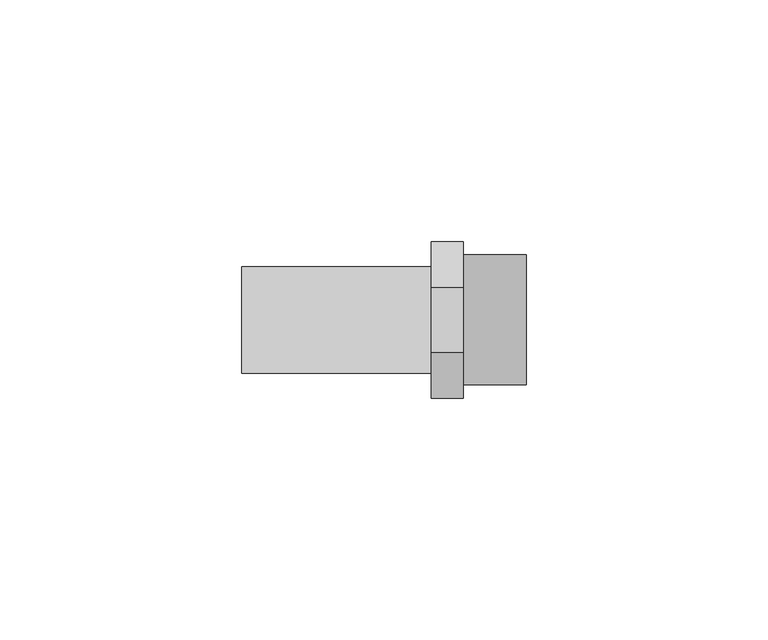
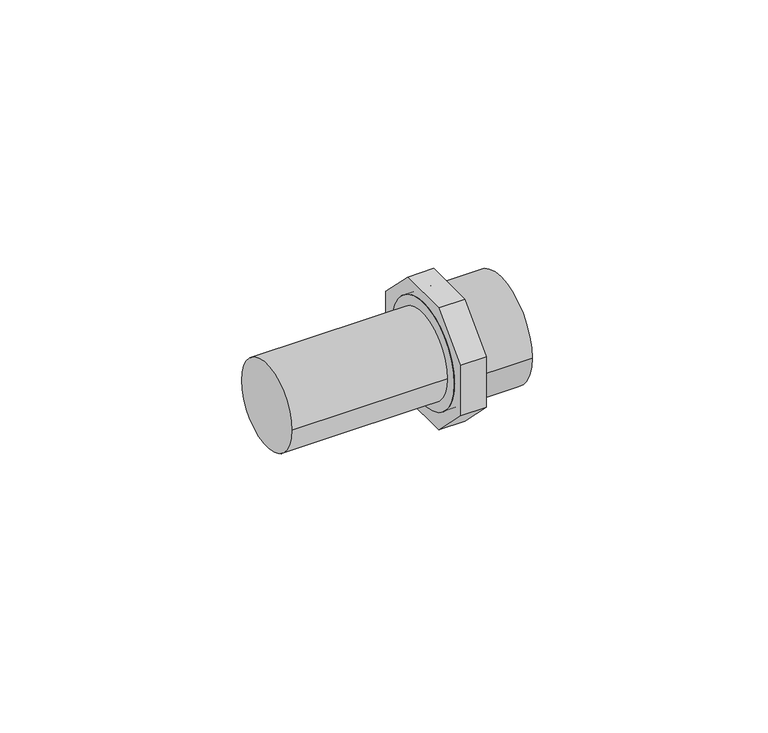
"""IFC4 building model written with IfcOpenShell, lengths in millimetres: pipe fitting geometry."""

from ifc_helpers import new_model, si_unit, point, frame, origin, origin_2d, place, context, project, spatial, polyline, circle_curve, trimmed, segment, composite_curve, outline, extrude, source, transform, mapped, element, save


def pipe_fitting_5f96ebef(model_context):
    return source(origin(), model_context, "Body", "SweptSolid", [
        extrude(outline(composite_curve([segment(trimmed(circle_curve(origin_2d(), 13.45), [point((-13.45, 0.0))], [point((13.45, 0.0))], False, "CARTESIAN"), True, "CONTINUOUS"), segment(trimmed(circle_curve(origin_2d(), 13.45), [point((13.45, 0.0))], [point((-13.45, 0.0))], False, "CARTESIAN"), True, "CONTINUOUS")], self_intersect=False)), frame((9.8333333, 0.0, 0.0), z_axis=(1.0, 0.0, 0.0), x_axis=(0.0, 1.0, 0.0)), (0.0, 0.0, 1.0), 19.6666667),
        extrude(outline(polyline([(16.2355862, 6.725), (16.2355862, -6.725), (6.725, -16.2355862), (-6.725, -16.2355862), (-16.2355862, -6.725), (-16.2355862, 6.725), (-6.725, 16.2355862), (6.725, 16.2355862), (16.2355862, 6.725)]), holes=[composite_curve([segment(trimmed(circle_curve(origin_2d(), 13.45), [point((-13.45, 0.0))], [point((13.45, 0.0))], True, "CARTESIAN"), True, "CONTINUOUS"), segment(trimmed(circle_curve(origin_2d(), 13.45), [point((13.45, 0.0))], [point((-13.45, 0.0))], True, "CARTESIAN"), True, "CONTINUOUS")], self_intersect=False)]), frame((9.8333333, 0.0, 0.0), z_axis=(1.0, 0.0, 0.0), x_axis=(0.0, 1.0, 0.0)), (0.0, 0.0, 1.0), 6.5555556),
        extrude(outline(composite_curve([segment(trimmed(circle_curve(origin_2d(), 11.0), [point((-11.0, 0.0))], [point((11.0, 0.0))], False, "CARTESIAN"), True, "CONTINUOUS"), segment(trimmed(circle_curve(origin_2d(), 11.0), [point((11.0, 0.0))], [point((-11.0, 0.0))], False, "CARTESIAN"), True, "CONTINUOUS")], self_intersect=False)), frame((-29.5, 0.0, 0.0), z_axis=(1.0, 0.0, 0.0), x_axis=(0.0, 1.0, 0.0)), (0.0, 0.0, 1.0), 59.0),
    ])


if __name__ == "__main__":
    model = new_model("IFC4")
    model_context = context("Model", 3, world=origin())
    ifc_project = project(units=[si_unit("LENGTHUNIT", "METRE", prefix="MILLI")], contexts=[model_context])
    site = spatial("IfcSite", under=ifc_project)
    building = spatial("IfcBuilding", under=site)
    placement = place(None, origin())
    pipe_fitting_shape = pipe_fitting_5f96ebef(model_context)
    element("IfcPipeFitting", 1, ObjectType="NLRS_50_PIF_UN_Mapress koper overgang met buitendraad en insteekeinde_geb : DN12-20-R3/4\" / d15-22-R3/4\"", at=placement, inside=building, context=model_context, shape_type="MappedRepresentation", body=[
        mapped(pipe_fitting_shape, transform((0.0, 0.0, 0.0), x_axis=(1.0, 0.0, 0.0), y_axis=(0.0, 1.0, 0.0), z_axis=(0.0, 0.0, 1.0))),
    ])
    save(model, "model.ifc")
